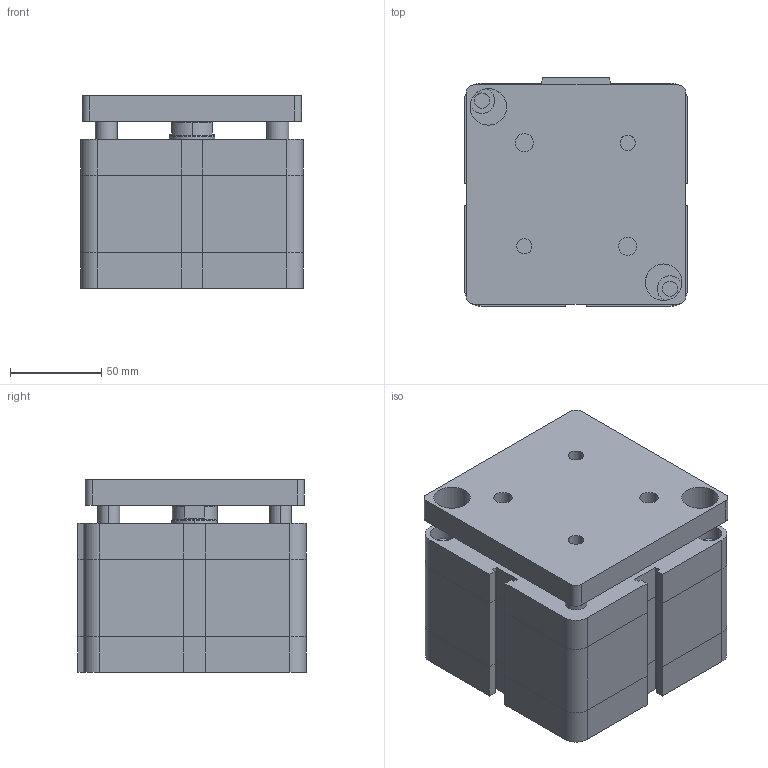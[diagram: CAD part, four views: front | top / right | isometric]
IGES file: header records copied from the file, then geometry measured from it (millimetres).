
Global section: file name: No Iges File Name specified; native system: Autodesk Inventor 2009; preprocessor: AutoDesk Inventor Iges Exporter R2009; author: maffial1; date: 20090420.201420; units: millimetre
Bounding box: 122 x 125 x 105.5 mm (x, y, z)
Volume: 1377034.8 mm3; surface area: 127159.1 mm2
Topology: 2 solids, 2 shells, 212 faces, 486 edges, 298 vertices
Faces by surface type: plane 111, bspline 67, cylinder 26, cone 8
